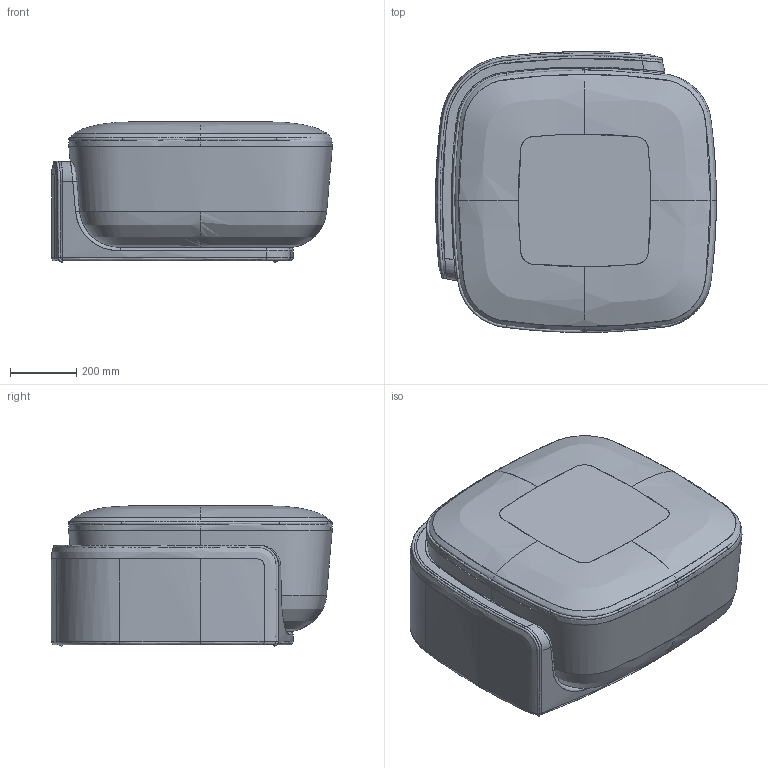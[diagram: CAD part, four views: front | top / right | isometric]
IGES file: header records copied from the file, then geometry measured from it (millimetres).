
Global section: file name: C:\Users\market02\Desktop\RYAN\litho plan\fait\PierreFrey_Delvigne_Litho_Pouf_\PierreFrey_Delvigne_Litho_Pouf_.igs; native system: Rhinoceros ( Dec 14 2021 ); preprocessor: Trout Lake IGES 012 Dec 14 2021; date: 220725.132433; units: millimetre
Bounding box: 848.03 x 848.87 x 424 mm (x, y, z)
Surface area: 3684170.7 mm2 (no closed solid volume)
Topology: 0 solids, 0 shells, 81 faces, 2073 edges, 2057 vertices
Faces by surface type: bspline 81
